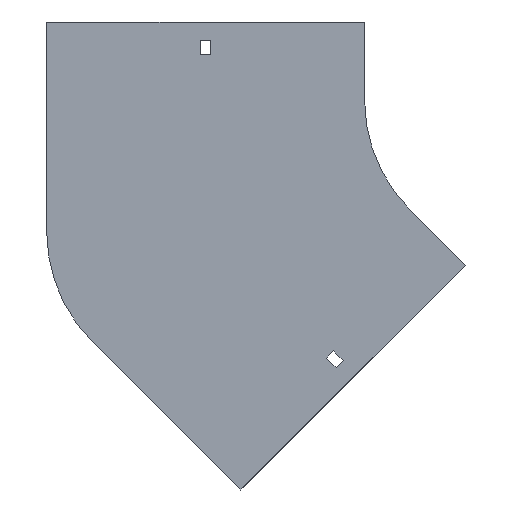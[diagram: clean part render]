
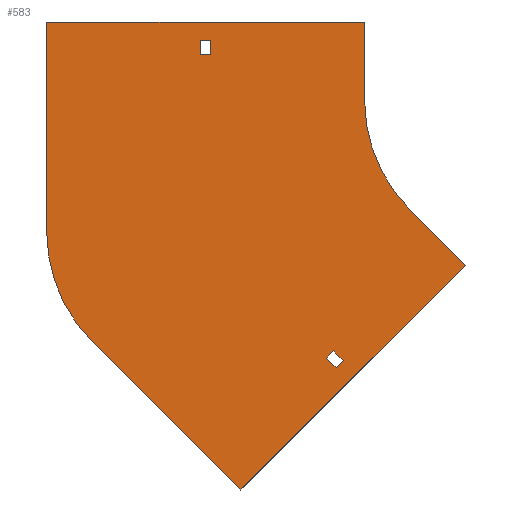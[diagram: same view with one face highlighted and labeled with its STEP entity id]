
A CAD part, front view. The second image highlights one B-rep face of the part: STEP entity #583.
In plain terms, the highlighted planar face has unit normal (0, -1, 0).
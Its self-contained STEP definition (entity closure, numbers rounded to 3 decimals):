
#42 = LINE ( 'NONE', #507, #432 ) ;
#45 = EDGE_CURVE ( 'NONE', #215, #1401, #42, .T. ) ;
#54 = ORIENTED_EDGE ( 'NONE', *, *, #1463, .F. ) ;
#60 = ORIENTED_EDGE ( 'NONE', *, *, #417, .F. ) ;
#104 = DIRECTION ( 'NONE',  ( 0., 0., -1. ) ) ;
#113 = CARTESIAN_POINT ( 'NONE',  ( -179.605, 0., -250.316 ) ) ;
#136 = VECTOR ( 'NONE', #874, 1000. ) ;
#150 = CARTESIAN_POINT ( 'NONE',  ( -120.031, 0., -161.044 ) ) ;
#154 = VERTEX_POINT ( 'NONE', #994 ) ;
#180 = ORIENTED_EDGE ( 'NONE', *, *, #1721, .T. ) ;
#215 = VERTEX_POINT ( 'NONE', #689 ) ;
#244 = CARTESIAN_POINT ( 'NONE',  ( -198.75, 0., 38. ) ) ;
#259 = CARTESIAN_POINT ( 'NONE',  ( -274.711, 0., -155.21 ) ) ;
#284 = LINE ( 'NONE', #1805, #1496 ) ;
#292 = DIRECTION ( 'NONE',  ( 0.707, 0., 0.707 ) ) ;
#293 = DIRECTION ( 'NONE',  ( 1., 0., 0. ) ) ;
#314 = VERTEX_POINT ( 'NONE', #1398 ) ;
#336 = DIRECTION ( 'NONE',  ( 0.707, 0., -0.707 ) ) ;
#342 = ORIENTED_EDGE ( 'NONE', *, *, #459, .T. ) ;
#343 = CARTESIAN_POINT ( 'NONE',  ( 0., 0., 0. ) ) ;
#378 = EDGE_CURVE ( 'NONE', #865, #440, #1290, .T. ) ;
#403 = ORIENTED_EDGE ( 'NONE', *, *, #702, .T. ) ;
#417 = EDGE_CURVE ( 'NONE', #545, #1715, #1864, .T. ) ;
#432 = VECTOR ( 'NONE', #933, 1000. ) ;
#440 = VERTEX_POINT ( 'NONE', #1259 ) ;
#447 = CARTESIAN_POINT ( 'NONE',  ( -124.628, 0., -165.64 ) ) ;
#457 = EDGE_CURVE ( 'NONE', #1715, #314, #1768, .T. ) ;
#458 = DIRECTION ( 'NONE',  ( -0.707, 0., -0.707 ) ) ;
#459 = EDGE_CURVE ( 'NONE', #440, #1788, #1139, .T. ) ;
#460 = CARTESIAN_POINT ( 'NONE',  ( -70.711, 0., -70.711 ) ) ;
#461 = LINE ( 'NONE', #447, #853 ) ;
#475 = VERTEX_POINT ( 'NONE', #1920 ) ;
#484 = EDGE_LOOP ( 'NONE', ( #1492, #782, #1227, #1320 ) ) ;
#498 = VERTEX_POINT ( 'NONE', #566 ) ;
#507 = CARTESIAN_POINT ( 'NONE',  ( -35.355, 0., -106.066 ) ) ;
#523 = DIRECTION ( 'NONE',  ( 0., 0., 1. ) ) ;
#539 = CARTESIAN_POINT ( 'NONE',  ( -118.264, 0., -172.004 ) ) ;
#545 = VERTEX_POINT ( 'NONE', #259 ) ;
#558 = VECTOR ( 'NONE', #1905, 1000. ) ;
#560 = ORIENTED_EDGE ( 'NONE', *, *, #1656, .F. ) ;
#566 = CARTESIAN_POINT ( 'NONE',  ( -100., 0., 0. ) ) ;
#583 = ADVANCED_FACE ( 'NONE', ( #1221, #1943, #1194 ), #748, .T. ) ;
#600 = DIRECTION ( 'NONE',  ( 0., -1., 0. ) ) ;
#622 = CARTESIAN_POINT ( 'NONE',  ( -124.628, 0., -165.64 ) ) ;
#661 = EDGE_LOOP ( 'NONE', ( #1338, #342, #180, #403 ) ) ;
#682 = CARTESIAN_POINT ( 'NONE',  ( -205.25, 0., 29. ) ) ;
#689 = CARTESIAN_POINT ( 'NONE',  ( -35.355, 0., -106.066 ) ) ;
#701 = LINE ( 'NONE', #1302, #136 ) ;
#702 = EDGE_CURVE ( 'NONE', #745, #865, #1128, .T. ) ;
#703 = LINE ( 'NONE', #1303, #558 ) ;
#708 = ORIENTED_EDGE ( 'NONE', *, *, #45, .F. ) ;
#745 = VERTEX_POINT ( 'NONE', #1267 ) ;
#748 = PLANE ( 'NONE',  #826 ) ;
#782 = ORIENTED_EDGE ( 'NONE', *, *, #878, .F. ) ;
#786 = DIRECTION ( 'NONE',  ( 0., -1., 0. ) ) ;
#791 = DIRECTION ( 'NONE',  ( 0., 0., 1. ) ) ;
#800 = DIRECTION ( 'NONE',  ( 0., 1., 0. ) ) ;
#826 = AXIS2_PLACEMENT_3D ( 'NONE', #1073, #600, #1529 ) ;
#840 = LINE ( 'NONE', #850, #1812 ) ;
#850 = CARTESIAN_POINT ( 'NONE',  ( -198.75, 0., 29. ) ) ;
#853 = VECTOR ( 'NONE', #336, 1000. ) ;
#865 = VERTEX_POINT ( 'NONE', #1343 ) ;
#874 = DIRECTION ( 'NONE',  ( 0., 0., -1. ) ) ;
#878 = EDGE_CURVE ( 'NONE', #475, #1713, #461, .T. ) ;
#879 = EDGE_CURVE ( 'NONE', #154, #1874, #941, .T. ) ;
#933 = DIRECTION ( 'NONE',  ( -0.707, 0., -0.707 ) ) ;
#941 = LINE ( 'NONE', #150, #1295 ) ;
#994 = CARTESIAN_POINT ( 'NONE',  ( -113.667, 0., -167.408 ) ) ;
#1003 = DIRECTION ( 'NONE',  ( 1., 0., 0. ) ) ;
#1072 = VECTOR ( 'NONE', #1243, 1000. ) ;
#1073 = CARTESIAN_POINT ( 'NONE',  ( 0., 0., 0. ) ) ;
#1086 = VECTOR ( 'NONE', #458, 1000. ) ;
#1114 = ORIENTED_EDGE ( 'NONE', *, *, #1796, .F. ) ;
#1126 = CIRCLE ( 'NONE', #1917, 100. ) ;
#1128 = LINE ( 'NONE', #1845, #1072 ) ;
#1138 = VECTOR ( 'NONE', #1782, 1000. ) ;
#1139 = LINE ( 'NONE', #1744, #1743 ) ;
#1158 = VECTOR ( 'NONE', #1354, 1000. ) ;
#1171 = EDGE_CURVE ( 'NONE', #498, #1564, #1126, .T. ) ;
#1182 = LINE ( 'NONE', #1783, #1754 ) ;
#1194 = FACE_BOUND ( 'NONE', #484, .T. ) ;
#1221 = FACE_BOUND ( 'NONE', #661, .T. ) ;
#1227 = ORIENTED_EDGE ( 'NONE', *, *, #1912, .F. ) ;
#1229 = ORIENTED_EDGE ( 'NONE', *, *, #1171, .F. ) ;
#1242 = DIRECTION ( 'NONE',  ( 0., 0., -1. ) ) ;
#1243 = DIRECTION ( 'NONE',  ( -1., 0., 0. ) ) ;
#1259 = CARTESIAN_POINT ( 'NONE',  ( -205.25, 0., 38. ) ) ;
#1267 = CARTESIAN_POINT ( 'NONE',  ( -198.75, 0., 29. ) ) ;
#1290 = LINE ( 'NONE', #682, #1708 ) ;
#1295 = VECTOR ( 'NONE', #1506, 1000. ) ;
#1302 = CARTESIAN_POINT ( 'NONE',  ( -100., 0., 50. ) ) ;
#1303 = CARTESIAN_POINT ( 'NONE',  ( -179.605, 0., -250.316 ) ) ;
#1320 = ORIENTED_EDGE ( 'NONE', *, *, #879, .F. ) ;
#1338 = ORIENTED_EDGE ( 'NONE', *, *, #378, .T. ) ;
#1343 = CARTESIAN_POINT ( 'NONE',  ( -205.25, 0., 29. ) ) ;
#1349 = VERTEX_POINT ( 'NONE', #1908 ) ;
#1354 = DIRECTION ( 'NONE',  ( 0.707, 0., -0.707 ) ) ;
#1398 = CARTESIAN_POINT ( 'NONE',  ( -304., 0., 50. ) ) ;
#1401 = VERTEX_POINT ( 'NONE', #113 ) ;
#1442 = EDGE_LOOP ( 'NONE', ( #1853, #1800, #60, #1114, #708, #560, #1229, #54 ) ) ;
#1463 = EDGE_CURVE ( 'NONE', #1349, #498, #701, .T. ) ;
#1492 = ORIENTED_EDGE ( 'NONE', *, *, #1837, .F. ) ;
#1496 = VECTOR ( 'NONE', #293, 1000. ) ;
#1506 = DIRECTION ( 'NONE',  ( -0.707, 0., 0.707 ) ) ;
#1529 = DIRECTION ( 'NONE',  ( 0., 0., -1. ) ) ;
#1541 = CARTESIAN_POINT ( 'NONE',  ( -120.031, 0., -161.044 ) ) ;
#1560 = EDGE_CURVE ( 'NONE', #314, #1349, #284, .T. ) ;
#1564 = VERTEX_POINT ( 'NONE', #460 ) ;
#1605 = AXIS2_PLACEMENT_3D ( 'NONE', #1883, #800, #523 ) ;
#1626 = CARTESIAN_POINT ( 'NONE',  ( -304., 0., -84.5 ) ) ;
#1656 = EDGE_CURVE ( 'NONE', #1564, #215, #1657, .T. ) ;
#1657 = LINE ( 'NONE', #1668, #1158 ) ;
#1668 = CARTESIAN_POINT ( 'NONE',  ( -70.711, 0., -70.711 ) ) ;
#1708 = VECTOR ( 'NONE', #791, 1000. ) ;
#1712 = LINE ( 'NONE', #622, #1086 ) ;
#1713 = VERTEX_POINT ( 'NONE', #539 ) ;
#1715 = VERTEX_POINT ( 'NONE', #1759 ) ;
#1721 = EDGE_CURVE ( 'NONE', #1788, #745, #840, .T. ) ;
#1743 = VECTOR ( 'NONE', #1003, 1000. ) ;
#1744 = CARTESIAN_POINT ( 'NONE',  ( -205.25, 0., 38. ) ) ;
#1754 = VECTOR ( 'NONE', #292, 1000. ) ;
#1759 = CARTESIAN_POINT ( 'NONE',  ( -304., 0., -84.5 ) ) ;
#1768 = LINE ( 'NONE', #1626, #1138 ) ;
#1782 = DIRECTION ( 'NONE',  ( 0., 0., 1. ) ) ;
#1783 = CARTESIAN_POINT ( 'NONE',  ( -118.264, 0., -172.004 ) ) ;
#1788 = VERTEX_POINT ( 'NONE', #244 ) ;
#1796 = EDGE_CURVE ( 'NONE', #1401, #545, #703, .T. ) ;
#1800 = ORIENTED_EDGE ( 'NONE', *, *, #457, .F. ) ;
#1805 = CARTESIAN_POINT ( 'NONE',  ( -304., 0., 50. ) ) ;
#1812 = VECTOR ( 'NONE', #104, 1000. ) ;
#1837 = EDGE_CURVE ( 'NONE', #1713, #154, #1182, .T. ) ;
#1845 = CARTESIAN_POINT ( 'NONE',  ( -205.25, 0., 29. ) ) ;
#1853 = ORIENTED_EDGE ( 'NONE', *, *, #1560, .F. ) ;
#1864 = CIRCLE ( 'NONE', #1605, 100. ) ;
#1874 = VERTEX_POINT ( 'NONE', #1541 ) ;
#1883 = CARTESIAN_POINT ( 'NONE',  ( -204., 0., -84.5 ) ) ;
#1905 = DIRECTION ( 'NONE',  ( -0.707, 0., 0.707 ) ) ;
#1908 = CARTESIAN_POINT ( 'NONE',  ( -100., 0., 50. ) ) ;
#1912 = EDGE_CURVE ( 'NONE', #1874, #475, #1712, .T. ) ;
#1917 = AXIS2_PLACEMENT_3D ( 'NONE', #343, #786, #1242 ) ;
#1920 = CARTESIAN_POINT ( 'NONE',  ( -124.628, 0., -165.64 ) ) ;
#1943 = FACE_OUTER_BOUND ( 'NONE', #1442, .T. ) ;
